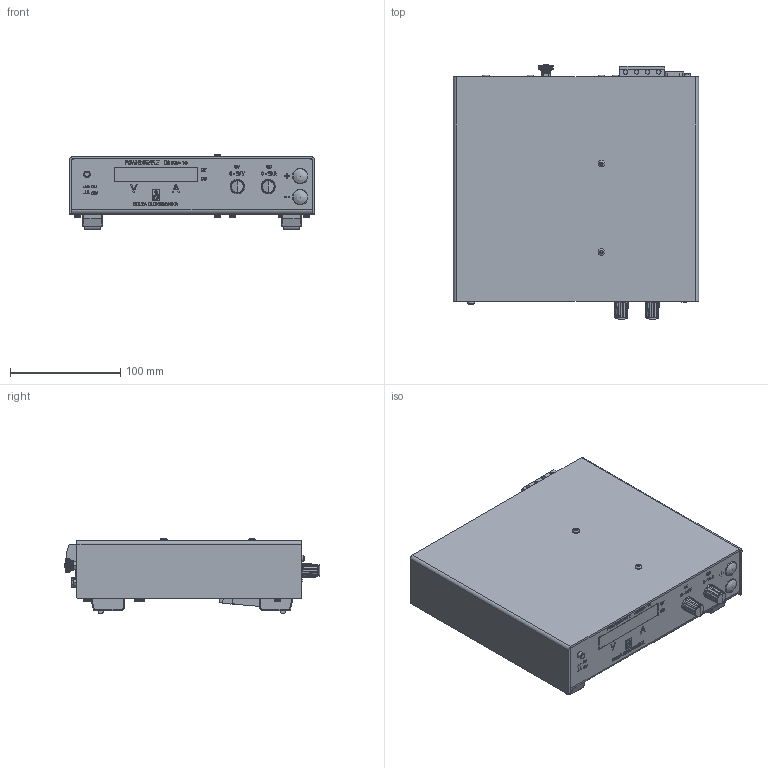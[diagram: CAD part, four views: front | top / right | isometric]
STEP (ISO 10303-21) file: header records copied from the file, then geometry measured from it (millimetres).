
FILE_DESCRIPTION(/* description */ (''),/* implementation_level */ '2;1');
FILE_NAME(/* name */ 'A:\Data\ES150\option\P148\step files\ES150-P119-P148.stp',/* time_stamp */ '2021-03-15T14:00:44+01:00',/* author */ ('Delta'),/* organization */ (''),/* preprocessor_version */ 'ST-DEVELOPER v17.2',/* originating_system */ 'Autodesk Inventor 2019',/* authorisation */ '');
FILE_SCHEMA (('AUTOMOTIVE_DESIGN { 1 0 10303 214 3 1 1 }'));
Products named in the file (1): assembly ES150-P119-P148_Shrinkwrap_1
Bounding box: 222 x 231.2 x 68.2 mm (x, y, z)
Volume: 2325694.6 mm3; surface area: 167394.8 mm2
Topology: 1 solids, 1 shells, 3556 faces, 8522 edges, 5452 vertices
Faces by surface type: plane 1963, cylinder 754, bspline 404, cone 271, torus 96, sphere 68
Full cylindrical faces by diameter (mm): 0.9 x9, 1.1 x9, 2.156 x4, 2.7 x2, 2.76 x2, 3 x2, 3.2 x2, 3.5 x342, 3.9 x4, 4 x2, 4.5 x2, 4.75 x4, 5 x1, 5.8 x1, 6 x36, 6.2 x2, 6.9 x1, 7.8 x2, 8 x4, 8.3 x2, 8.8 x2, 9 x6, 10 x2, 10.5 x1, 10.7 x2
Entity records: 112548 total; most frequent: CARTESIAN_POINT 28906, ORIENTED_EDGE 16998, DIRECTION 15962, EDGE_CURVE 8499, AXIS2_PLACEMENT_3D 5731, VERTEX_POINT 5454, LINE 4500, VECTOR 4500
